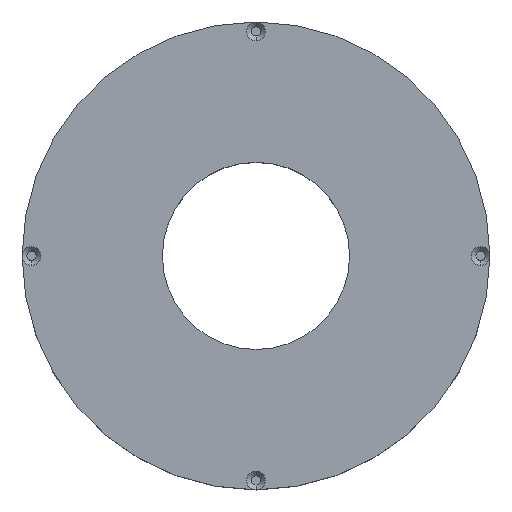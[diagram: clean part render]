
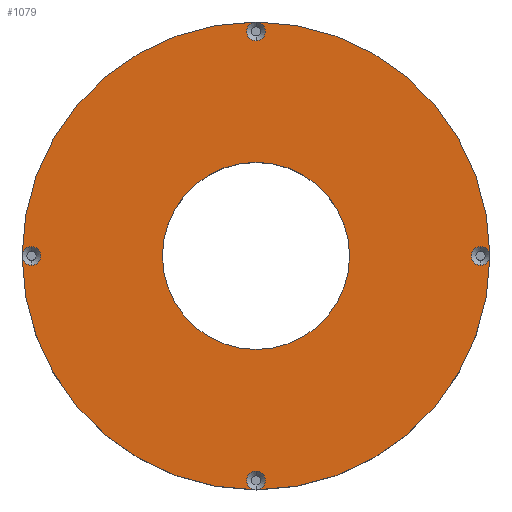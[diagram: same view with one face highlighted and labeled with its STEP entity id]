
A CAD part, top view. The second image highlights one B-rep face of the part: STEP entity #1079.
In plain terms, the highlighted planar face has unit normal (0, 0, 1).
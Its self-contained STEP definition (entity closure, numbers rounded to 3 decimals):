
#140=CARTESIAN_POINT('',(0.,0.,22.));
#141=DIRECTION('',(0.,0.,-1.));
#142=DIRECTION('',(1.,0.,0.));
#143=AXIS2_PLACEMENT_3D('',#140,#141,#142);
#145=CARTESIAN_POINT('',(0.,0.,22.));
#146=DIRECTION('',(0.,0.,-1.));
#147=DIRECTION('',(-1.,0.,0.));
#148=AXIS2_PLACEMENT_3D('',#145,#146,#147);
#150=CARTESIAN_POINT('',(0.,-48.,22.));
#151=DIRECTION('',(0.,0.,-1.));
#152=DIRECTION('',(0.,1.,0.));
#153=AXIS2_PLACEMENT_3D('',#150,#151,#152);
#155=CARTESIAN_POINT('',(0.,-48.,22.));
#156=DIRECTION('',(0.,0.,-1.));
#157=DIRECTION('',(0.,-1.,0.));
#158=AXIS2_PLACEMENT_3D('',#155,#156,#157);
#160=CARTESIAN_POINT('',(0.,0.,22.));
#161=DIRECTION('',(0.,0.,1.));
#162=DIRECTION('',(-1.,0.,0.));
#163=AXIS2_PLACEMENT_3D('',#160,#161,#162);
#165=CARTESIAN_POINT('',(-48.,0.,22.));
#166=DIRECTION('',(0.,0.,-1.));
#167=DIRECTION('',(0.,-1.,0.));
#168=AXIS2_PLACEMENT_3D('',#165,#166,#167);
#170=CARTESIAN_POINT('',(-48.,0.,22.));
#171=DIRECTION('',(0.,0.,-1.));
#172=DIRECTION('',(0.,1.,0.));
#173=AXIS2_PLACEMENT_3D('',#170,#171,#172);
#175=CARTESIAN_POINT('',(-48.,0.,22.));
#176=DIRECTION('',(0.,0.,-1.));
#177=DIRECTION('',(-1.,0.,0.));
#178=AXIS2_PLACEMENT_3D('',#175,#176,#177);
#180=CARTESIAN_POINT('',(0.,0.,22.));
#181=DIRECTION('',(0.,0.,1.));
#182=DIRECTION('',(0.,1.,0.));
#183=AXIS2_PLACEMENT_3D('',#180,#181,#182);
#185=CARTESIAN_POINT('',(0.,48.,22.));
#186=DIRECTION('',(0.,0.,-1.));
#187=DIRECTION('',(0.,-1.,0.));
#188=AXIS2_PLACEMENT_3D('',#185,#186,#187);
#190=CARTESIAN_POINT('',(0.,48.,22.));
#191=DIRECTION('',(0.,0.,-1.));
#192=DIRECTION('',(0.,1.,0.));
#193=AXIS2_PLACEMENT_3D('',#190,#191,#192);
#195=CARTESIAN_POINT('',(0.,0.,22.));
#196=DIRECTION('',(0.,0.,1.));
#197=DIRECTION('',(1.,0.,0.));
#198=AXIS2_PLACEMENT_3D('',#195,#196,#197);
#200=CARTESIAN_POINT('',(48.,0.,22.));
#201=DIRECTION('',(0.,0.,-1.));
#202=DIRECTION('',(0.,1.,0.));
#203=AXIS2_PLACEMENT_3D('',#200,#201,#202);
#205=CARTESIAN_POINT('',(48.,0.,22.));
#206=DIRECTION('',(0.,0.,-1.));
#207=DIRECTION('',(0.,-1.,0.));
#208=AXIS2_PLACEMENT_3D('',#205,#206,#207);
#210=CARTESIAN_POINT('',(48.,0.,22.));
#211=DIRECTION('',(0.,0.,-1.));
#212=DIRECTION('',(1.,0.,0.));
#213=AXIS2_PLACEMENT_3D('',#210,#211,#212);
#215=CARTESIAN_POINT('',(0.,0.,22.));
#216=DIRECTION('',(0.,0.,1.));
#217=DIRECTION('',(0.,-1.,0.));
#218=AXIS2_PLACEMENT_3D('',#215,#216,#217);
#687=CARTESIAN_POINT('',(20.,0.,22.));
#688=CARTESIAN_POINT('',(-20.,0.,22.));
#689=VERTEX_POINT('',#687);
#690=VERTEX_POINT('',#688);
#691=CARTESIAN_POINT('',(50.,0.,22.));
#692=VERTEX_POINT('',#691);
#693=CARTESIAN_POINT('',(-50.,0.,
22.));
#694=VERTEX_POINT('',#693);
#815=CARTESIAN_POINT('',(0.,-46.,22.));
#816=CARTESIAN_POINT('',(0.,-50.,22.));
#817=VERTEX_POINT('',#815);
#818=VERTEX_POINT('',#816);
#827=CARTESIAN_POINT('',(48.,-2.,22.));
#828=CARTESIAN_POINT('',(48.,2.,22.));
#829=VERTEX_POINT('',#827);
#830=VERTEX_POINT('',#828);
#831=CARTESIAN_POINT('',(0.,50.,22.));
#832=CARTESIAN_POINT('',(0.,46.,22.));
#833=VERTEX_POINT('',#831);
#834=VERTEX_POINT('',#832);
#839=CARTESIAN_POINT('',(-48.,2.,22.));
#840=CARTESIAN_POINT('',(-48.,-2.,22.));
#841=VERTEX_POINT('',#839);
#842=VERTEX_POINT('',#840);
#1040=CARTESIAN_POINT('',(0.,0.,22.));
#1041=DIRECTION('',(0.,0.,1.));
#1042=DIRECTION('',(1.,0.,0.));
#1043=AXIS2_PLACEMENT_3D('',#1040,#1041,#1042);
#1044=PLANE('',#1043);
#1046=ORIENTED_EDGE('',*,*,#1045,.F.);
#1048=ORIENTED_EDGE('',*,*,#1047,.F.);
#1050=ORIENTED_EDGE('',*,*,#1049,.F.);
#1052=ORIENTED_EDGE('',*,*,#1051,.F.);
#1054=ORIENTED_EDGE('',*,*,#1053,.F.);
#1056=ORIENTED_EDGE('',*,*,#1055,.F.);
#1057=ORIENTED_EDGE('',*,*,#1030,.F.);
#1059=ORIENTED_EDGE('',*,*,#1058,.F.);
#1061=ORIENTED_EDGE('',*,*,#1060,.F.);
#1062=ORIENTED_EDGE('',*,*,#1028,.F.);
#1064=ORIENTED_EDGE('',*,*,#1063,.F.);
#1066=ORIENTED_EDGE('',*,*,#1065,.F.);
#1068=ORIENTED_EDGE('',*,*,#1067,.F.);
#1070=ORIENTED_EDGE('',*,*,#1069,.F.);
#1071=EDGE_LOOP('',(#1046,#1048,#1050,#1052,#1054,#1056,#1057,#1059,#1061,#1062,
#1064,#1066,#1068,#1070));
#1072=FACE_OUTER_BOUND('',#1071,.F.);
#1074=ORIENTED_EDGE('',*,*,#1073,.F.);
#1076=ORIENTED_EDGE('',*,*,#1075,.F.);
#1077=EDGE_LOOP('',(#1074,#1076));
#1078=FACE_BOUND('',#1077,.F.);
#144=CIRCLE('',#143,20.);
#149=CIRCLE('',#148,20.);
#154=CIRCLE('',#153,2.);
#159=CIRCLE('',#158,2.);
#164=CIRCLE('',#163,50.);
#169=CIRCLE('',#168,2.);
#174=CIRCLE('',#173,2.);
#179=CIRCLE('',#178,2.);
#184=CIRCLE('',#183,50.);
#189=CIRCLE('',#188,2.);
#194=CIRCLE('',#193,2.);
#199=CIRCLE('',#198,50.);
#204=CIRCLE('',#203,2.);
#209=CIRCLE('',#208,2.);
#214=CIRCLE('',#213,2.);
#219=CIRCLE('',#218,50.);
#1028=EDGE_CURVE('',#692,#833,#199,.T.);
#1030=EDGE_CURVE('',#833,#694,#184,.T.);
#1045=EDGE_CURVE('',#817,#818,#154,.T.);
#1047=EDGE_CURVE('',#818,#817,#159,.T.);
#1049=EDGE_CURVE('',#694,#818,#164,.T.);
#1051=EDGE_CURVE('',#842,#694,#169,.T.);
#1053=EDGE_CURVE('',#841,#842,#174,.T.);
#1055=EDGE_CURVE('',#694,#841,#179,.T.);
#1058=EDGE_CURVE('',#834,#833,#189,.T.);
#1060=EDGE_CURVE('',#833,#834,#194,.T.);
#1063=EDGE_CURVE('',#830,#692,#204,.T.);
#1065=EDGE_CURVE('',#829,#830,#209,.T.);
#1067=EDGE_CURVE('',#692,#829,#214,.T.);
#1069=EDGE_CURVE('',#818,#692,#219,.T.);
#1073=EDGE_CURVE('',#689,#690,#144,.T.);
#1075=EDGE_CURVE('',#690,#689,#149,.T.);
#1079=ADVANCED_FACE('',(#1072,#1078),#1044,.T.);
